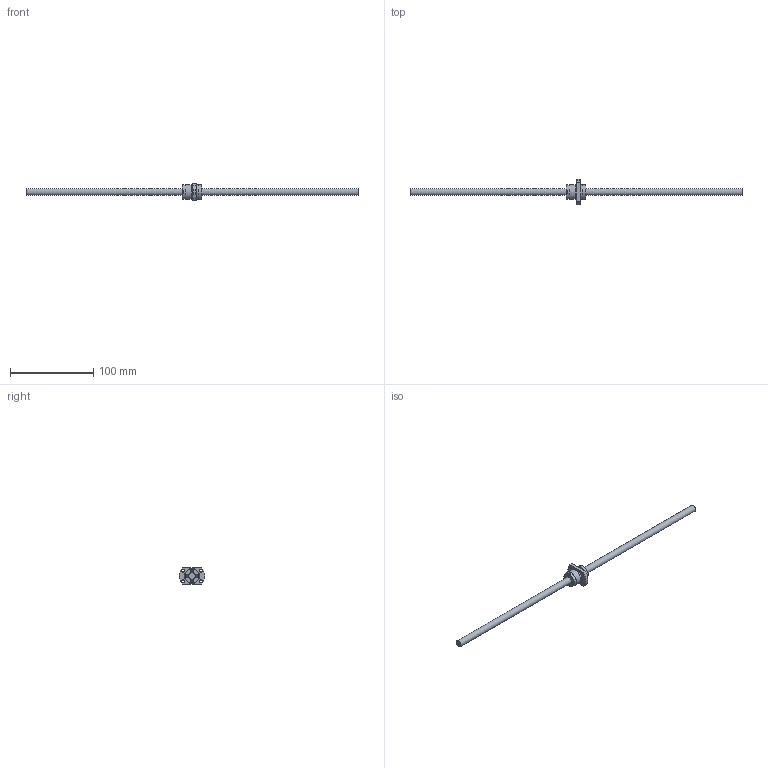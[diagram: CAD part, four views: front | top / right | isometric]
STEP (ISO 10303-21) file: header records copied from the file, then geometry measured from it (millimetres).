
FILE_DESCRIPTION( ( 'STEP AP214' ), ' ' );
FILE_NAME( 'p:/temp/worker_4/1548_2664/app_55_12015091121542290428865260eae72_000000_00_00_000000/format_0/SR0810-400R400C7(188).stp', '2015-09-11T19:54:23', ( '' ), ( '' ), ' ', 'PARTsolutions', ' ' );
FILE_SCHEMA( ( 'AUTOMOTIVE_DESIGN { 1 0 10303 214 1 1 1 1 }' ) );
Length unit declared in the file: millimetre
Products named in the file (3): SR0810-400R400C7(188); _SR0810(188)_shaft; _SR0810C7_nut
Assembly tree (2 placements, depth 2):
  SR0810-400R400C7(188)
    _SR0810(188)_shaft
    _SR0810C7_nut
Bounding box: 400 x 30.91 x 20 mm (x, y, z)
Volume: 25978.1 mm3; surface area: 13458.8 mm2
Topology: 2 solids, 2 shells, 82 faces, 194 edges, 128 vertices
Faces by surface type: plane 54, cylinder 21, cone 7
Full cylindrical faces by diameter (mm): 3 x4, 3.4 x4, 8 x2, 17.5 x2, 17.7 x1, 18 x2
Entity records: 3000 total; most frequent: CARTESIAN_POINT 411, DIRECTION 392, ORIENTED_EDGE 350, EDGE_CURVE 175, AXIS2_PLACEMENT_3D 140, VERTEX_POINT 127, EDGE_LOOP 122, LINE 112
